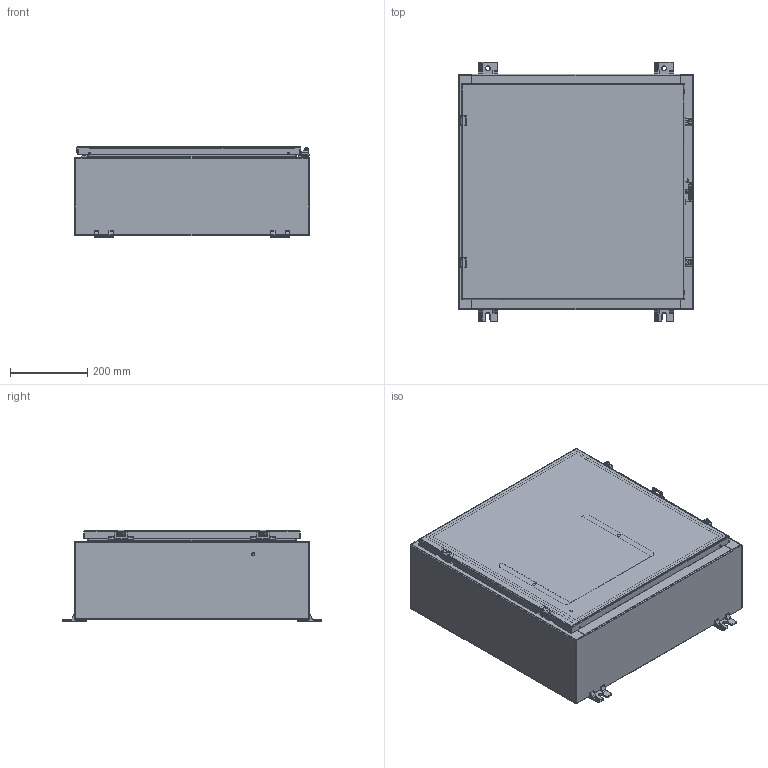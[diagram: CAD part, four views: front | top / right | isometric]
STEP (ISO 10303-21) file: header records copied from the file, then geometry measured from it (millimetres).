
FILE_DESCRIPTION((''),'2;1');
FILE_NAME('MODEL-309_ASM','2024-10-07T14:12:54',('richards'),('SAGINAW CONTROL & ENGINEERING'),'CREO PARAMETRIC BY PTC INC, 2021284','CREO PARAMETRIC BY PTC INC, 2021284','');
FILE_SCHEMA(('AUTOMOTIVE_DESIGN { 1 0 10303 214 1 1 1 1 }'));
Length unit declared in the file: inch
Products named in the file (35): MODEL-309-BDY; MODEL-309-TP; MODEL-309-BTM; MODEL-309-DR; 100837; 100882; 111267; MODEL-309-DOOR-GASKET; 126391; 126391_ASM; 126393; 102483; 101226; 101376; 102140; 115117; MODEL-309-DOOR-ASSY_ASM; 128630; 100059; 128630_ASM; 100921; 128631; 128631_ASM; 101653; 121452; 120132_BASE; 120132_CLAMP; 120132_SCREW; 120132_SPRING; 120132_ASM; 120133; SUBPANEL; 100904; SUBPANEL-SUBASSEMBLY_ASM; MODEL-309_ASM
Assembly tree (65 placements, depth 4):
  MODEL-309_ASM
    MODEL-309-BDY
    MODEL-309-TP
    MODEL-309-BTM
    MODEL-309-DOOR-ASSY_ASM
      MODEL-309-DR
      100837  x3
      100882  x2
      111267
      MODEL-309-DOOR-GASKET
      126391_ASM  x2
        126391
      126393  x2
      102483  x7
      101226  x2
      101376  x2
      102140  x2
      115117
    128630_ASM  x2
      128630
      100059
    100921  x4
    128631_ASM  x2
      128631
      100059
    100837
    101653  x4
    121452
    120132_ASM  x2
      120132_BASE
      120132_CLAMP
      120132_SCREW
      120132_SPRING
    100882  x3
    120133
    SUBPANEL-SUBASSEMBLY_ASM
      SUBPANEL
      100904  x4
Bounding box: 609.6 x 673.1 x 237.31 mm (x, y, z)
Volume: 4095510.6 mm3; surface area: 3715124.3 mm2
Topology: 65 solids, 65 shells, 4774 faces, 12215 edges, 7660 vertices
Faces by surface type: plane 1747, cylinder 1307, bspline 953, torus 526, cone 140, sphere 101
Entity records: 115191 total; most frequent: CARTESIAN_POINT 36303, ORIENTED_EDGE 11692, DIRECTION 11270, PRESENTATION_STYLE_ASSIGNMENT 5979, STYLED_ITEM 5979, CURVE_STYLE 5846, EDGE_CURVE 5846, AXIS2_PLACEMENT_3D 4187
